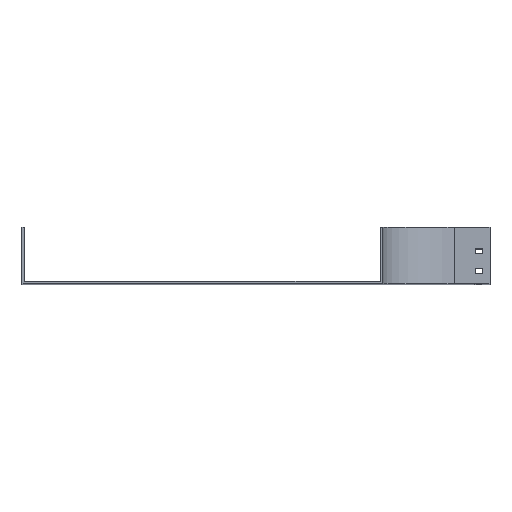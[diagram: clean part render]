
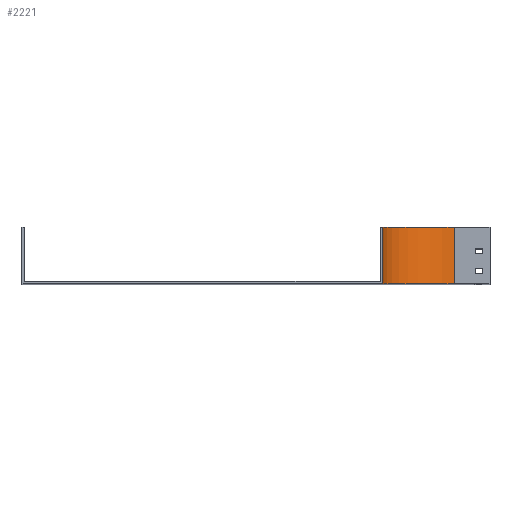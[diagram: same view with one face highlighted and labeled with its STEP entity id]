
A CAD part, top view. The second image highlights one B-rep face of the part: STEP entity #2221.
In plain terms, the highlighted cylindrical face has radius 100 mm (diameter 200 mm), a partial arc.
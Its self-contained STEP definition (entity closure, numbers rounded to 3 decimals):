
#101 = CIRCLE ( 'NONE', #324, 100. ) ;
#148 = AXIS2_PLACEMENT_3D ( 'NONE', #948, #964, #1994 ) ;
#149 = LINE ( 'NONE', #545, #2083 ) ;
#213 = CYLINDRICAL_SURFACE ( 'NONE', #2274, 100. ) ;
#261 = CARTESIAN_POINT ( 'NONE',  ( -100., 0., 0. ) ) ;
#279 = EDGE_CURVE ( 'NONE', #1845, #1331, #101, .T. ) ;
#290 = CIRCLE ( 'NONE', #148, 100. ) ;
#324 = AXIS2_PLACEMENT_3D ( 'NONE', #2564, #662, #456 ) ;
#352 = CARTESIAN_POINT ( 'NONE',  ( 0., 0., -100. ) ) ;
#356 = LINE ( 'NONE', #2702, #1648 ) ;
#449 = VERTEX_POINT ( 'NONE', #261 ) ;
#456 = DIRECTION ( 'NONE',  ( 0., 0., -1. ) ) ;
#545 = CARTESIAN_POINT ( 'NONE',  ( -100., 79., 0. ) ) ;
#585 = CARTESIAN_POINT ( 'NONE',  ( 0., 79., -100. ) ) ;
#662 = DIRECTION ( 'NONE',  ( 0., -1., 0. ) ) ;
#713 = ORIENTED_EDGE ( 'NONE', *, *, #279, .F. ) ;
#896 = EDGE_CURVE ( 'NONE', #1331, #993, #356, .T. ) ;
#948 = CARTESIAN_POINT ( 'NONE',  ( 0., 0., 0. ) ) ;
#955 = ORIENTED_EDGE ( 'NONE', *, *, #2017, .T. ) ;
#964 = DIRECTION ( 'NONE',  ( 0., -1., 0. ) ) ;
#993 = VERTEX_POINT ( 'NONE', #352 ) ;
#1000 = CARTESIAN_POINT ( 'NONE',  ( -100., 79., 0. ) ) ;
#1059 = CARTESIAN_POINT ( 'NONE',  ( 0., 79., 0. ) ) ;
#1331 = VERTEX_POINT ( 'NONE', #585 ) ;
#1485 = ORIENTED_EDGE ( 'NONE', *, *, #896, .F. ) ;
#1546 = EDGE_LOOP ( 'NONE', ( #1894, #1485, #713, #955 ) ) ;
#1648 = VECTOR ( 'NONE', #2496, 1000. ) ;
#1747 = EDGE_CURVE ( 'NONE', #449, #993, #290, .T. ) ;
#1845 = VERTEX_POINT ( 'NONE', #1000 ) ;
#1880 = DIRECTION ( 'NONE',  ( 0., -1., 0. ) ) ;
#1894 = ORIENTED_EDGE ( 'NONE', *, *, #1747, .T. ) ;
#1994 = DIRECTION ( 'NONE',  ( 0., 0., -1. ) ) ;
#2010 = DIRECTION ( 'NONE',  ( 0., -1., 0. ) ) ;
#2017 = EDGE_CURVE ( 'NONE', #1845, #449, #149, .T. ) ;
#2083 = VECTOR ( 'NONE', #2010, 1000. ) ;
#2090 = FACE_OUTER_BOUND ( 'NONE', #1546, .T. ) ;
#2221 = ADVANCED_FACE ( 'NONE', ( #2090 ), #213, .F. ) ;
#2274 = AXIS2_PLACEMENT_3D ( 'NONE', #1059, #1880, #2473 ) ;
#2473 = DIRECTION ( 'NONE',  ( 0., 0., -1. ) ) ;
#2496 = DIRECTION ( 'NONE',  ( 0., -1., 0. ) ) ;
#2564 = CARTESIAN_POINT ( 'NONE',  ( 0., 79., 0. ) ) ;
#2702 = CARTESIAN_POINT ( 'NONE',  ( 0., 79., -100. ) ) ;
